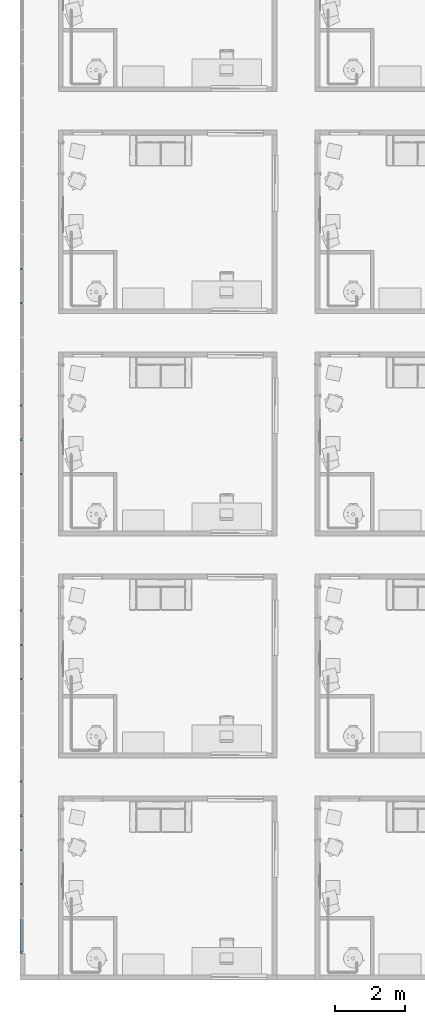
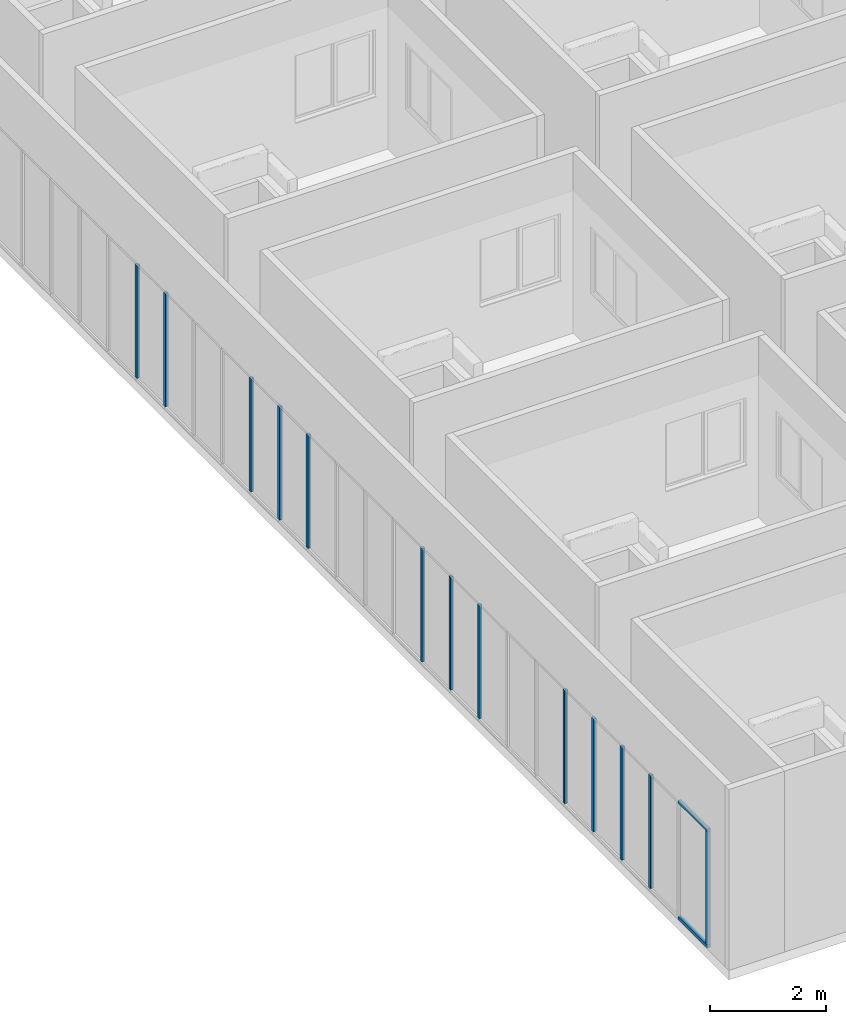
# One storey, part 1 of 71: 15 members, 1 element without a shape of its own.
"""IFC4 building model written with IfcOpenShell, lengths in centimetres."""

from ifc_helpers import new_model, entity, si_unit, converted_unit, derived_unit, direction, frame, origin, place, context, subcontext, project, spatial, indexed_curve, outline, extrude, source, transform, mapped, material, type_object, type_shapes, element, aggregate, save


model = new_model("IFC4")

# Units and contexts
model_context = context("Model", 3, precision=0.001, world=origin(), true_north=direction((6.123233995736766e-17, 1.0)))
body_context = subcontext(model_context, "Body", "Model", "MODEL_VIEW")
ifc_project = project(units=[si_unit("LENGTHUNIT", "METRE", prefix="CENTI"), si_unit("AREAUNIT", "SQUARE_METRE"), si_unit("VOLUMEUNIT", "CUBIC_METRE"), derived_unit("THERMALTRANSMITTANCEUNIT", [(si_unit("MASSUNIT", "GRAM", prefix="KILO"), 1), (si_unit("THERMODYNAMICTEMPERATUREUNIT", "KELVIN"), -1), (si_unit("TIMEUNIT", "SECOND"), -3)]), converted_unit("PLANEANGLEUNIT", "DEGREE", entity("IfcPlaneAngleMeasure", 0.017453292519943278), si_unit("PLANEANGLEUNIT", "RADIAN"), dimensions=[0, 0, 0, 0, 0, 0, 0]), derived_unit("MASSDENSITYUNIT", [(si_unit("MASSUNIT", "GRAM", prefix="KILO"), 1), (si_unit("LENGTHUNIT", "METRE"), -3)]), derived_unit("VAPORPERMEABILITYUNIT", [(si_unit("LENGTHUNIT", "METRE"), -1), (si_unit("TIMEUNIT", "SECOND"), 1)]), derived_unit("USERDEFINED", [(si_unit("MASSUNIT", "GRAM", prefix="KILO"), 1), (si_unit("TIMEUNIT", "SECOND"), -3), (si_unit("LENGTHUNIT", "METRE"), 3), (si_unit("ELECTRICCURRENTUNIT", "AMPERE"), -2)]), derived_unit("SPECIFICHEATCAPACITYUNIT", [(si_unit("THERMODYNAMICTEMPERATUREUNIT", "KELVIN"), -1), (si_unit("LENGTHUNIT", "METRE"), 2), (si_unit("TIMEUNIT", "SECOND"), -2)]), derived_unit("THERMALCONDUCTANCEUNIT", [(si_unit("MASSUNIT", "GRAM", prefix="KILO"), 1), (si_unit("THERMODYNAMICTEMPERATUREUNIT", "KELVIN"), -1), (si_unit("TIMEUNIT", "SECOND"), -3), (si_unit("LENGTHUNIT", "METRE"), 1)]), si_unit("PRESSUREUNIT", "PASCAL"), derived_unit("MODULUSOFELASTICITYUNIT", [(si_unit("MASSUNIT", "GRAM", prefix="KILO"), 1), (si_unit("LENGTHUNIT", "METRE"), -1), (si_unit("TIMEUNIT", "SECOND"), -2)]), derived_unit("THERMALEXPANSIONCOEFFICIENTUNIT", [(si_unit("THERMODYNAMICTEMPERATUREUNIT", "KELVIN"), -1)])], contexts=[model_context])

# Site, building, storey
site_placement = place(None, origin())
site = spatial("IfcSite", under=ifc_project, at=site_placement, Name="Default", CompositionType="ELEMENT")
building_placement = place(site_placement, origin())
building = spatial("IfcBuilding", under=site, at=building_placement, Name="IDS Escape Game Building", CompositionType="ELEMENT")
storey_placement = place(building_placement, frame((0.0, 0.0, 400.0)))
storey = spatial("IfcBuildingStorey", under=building, at=storey_placement, Name="01_First Floor", CompositionType="ELEMENT", Elevation=399.99999999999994)

# Curtain wall, members
curtain_wall_type = type_object("IfcCurtainWallType", Name="Curtain Wall:ARC_31.3_CWA_LIB_bandraam vast 100cm - profiel 60x60_gen_BERSnl", PredefinedType="NOTDEFINED")
curtain_wall_placement = place(storey_placement, frame((0.0, 0.0, -400.0)))
curtain_wall = element("IfcCurtainWall", 1, at=curtain_wall_placement, inside=storey, type_object=curtain_wall_type, Name="Curtain Wall:ARC_31.3_CWA_LIB_bandraam vast 100cm - profiel 60x60_gen_BERSnl", ObjectType="Curtain Wall:ARC_31.3_CWA_LIB_bandraam vast 100cm - profiel 60x60_gen_BERSnl", PredefinedType="NOTDEFINED")
ifc_material = material(Name="<Unnamed>")
member_type_1 = type_object("IfcMemberType", Name="Rectangular Mullion:30-_Stijl_Rechthoek_Midden_B60xD60", PredefinedType="MULLION", material=ifc_material)
shared_shape_1 = source(origin(), body_context, "Body", "SweptSolid", [
    extrude(outline(indexed_curve([(-3.0, -3.0), (3.0, -3.0), (3.0, 3.0), (-3.0, 3.0), (-3.0, -3.0)], self_intersect=False)), frame((-3.0, 3.0, -238.0), z_axis=(0.0, 0.0, 1.0), x_axis=(-1.0, 0.0, 0.0)), (0.0, 0.0, 1.0), 238.00000000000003),
])
type_shapes(member_type_1, [shared_shape_1])
member_1_placement = place(curtain_wall_placement, frame((-110.0, 75.0, 406.0), z_axis=(0.0, 0.0, -1.0), x_axis=(0.0, -1.0, 0.0)))
member_1 = element("IfcMember", 2, at=member_1_placement, type_object=member_type_1, material=ifc_material, Name="Rectangular Mullion:30-_Stijl_Rechthoek_Midden_B60xD60", ObjectType="Rectangular Mullion:30-_Stijl_Rechthoek_Midden_B60xD60", PredefinedType="MULLION", context=body_context, shape_type="MappedRepresentation", body=[
    mapped(shared_shape_1, transform((0.0, 0.0, 0.0), scale=1.0)),
])
member_type_2 = type_object("IfcMemberType", Name="Rectangular Mullion:30-_Stijl_Rechthoek_Midden_B60xD60", PredefinedType="MULLION", material=ifc_material)
shared_shape_2 = source(origin(), body_context, "Body", "SweptSolid", [
    extrude(outline(indexed_curve([(-3.0, -3.0), (3.0, -3.0), (3.0, 3.0), (-3.0, 3.0), (-3.0, -3.0)], self_intersect=False)), frame((0.0, 3.0, -238.0), z_axis=(0.0, 0.0, 1.0), x_axis=(-1.0, 0.0, 0.0)), (0.0, 0.0, 1.0), 238.00000000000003),
])
type_shapes(member_type_2, [shared_shape_2])
member_2_placement = place(curtain_wall_placement, frame((-110.0, 2041.870967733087, 406.0), z_axis=(0.0, 0.0, -1.0), x_axis=(0.0, -1.0, 0.0)))
member_2 = element("IfcMember", 3, at=member_2_placement, type_object=member_type_2, material=ifc_material, Name="Rectangular Mullion:30-_Stijl_Rechthoek_Midden_B60xD60", ObjectType="Rectangular Mullion:30-_Stijl_Rechthoek_Midden_B60xD60", PredefinedType="MULLION", context=body_context, shape_type="MappedRepresentation", body=[
    mapped(shared_shape_2, transform((0.0, 0.0, 0.0), scale=1.0)),
])
member_3_placement = place(curtain_wall_placement, frame((-110.0, 1943.6774193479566, 406.0), z_axis=(0.0, 0.0, -1.0), x_axis=(0.0, -1.0, 0.0)))
member_3 = element("IfcMember", 4, at=member_3_placement, type_object=member_type_2, material=ifc_material, Name="Rectangular Mullion:30-_Stijl_Rechthoek_Midden_B60xD60", ObjectType="Rectangular Mullion:30-_Stijl_Rechthoek_Midden_B60xD60", PredefinedType="MULLION", context=body_context, shape_type="MappedRepresentation", body=[
    mapped(shared_shape_2, transform((0.0, 0.0, 0.0), scale=1.0)),
])
member_4_placement = place(curtain_wall_placement, frame((-110.0, 1649.0967741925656, 406.0), z_axis=(0.0, 0.0, -1.0), x_axis=(0.0, -1.0, 0.0)))
member_4 = element("IfcMember", 5, at=member_4_placement, type_object=member_type_2, material=ifc_material, Name="Rectangular Mullion:30-_Stijl_Rechthoek_Midden_B60xD60", ObjectType="Rectangular Mullion:30-_Stijl_Rechthoek_Midden_B60xD60", PredefinedType="MULLION", context=body_context, shape_type="MappedRepresentation", body=[
    mapped(shared_shape_2, transform((0.0, 0.0, 0.0), scale=1.0)),
])
member_5_placement = place(curtain_wall_placement, frame((-110.0, 1550.9032258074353, 406.0), z_axis=(0.0, 0.0, -1.0), x_axis=(0.0, -1.0, 0.0)))
member_5 = element("IfcMember", 6, at=member_5_placement, type_object=member_type_2, material=ifc_material, Name="Rectangular Mullion:30-_Stijl_Rechthoek_Midden_B60xD60", ObjectType="Rectangular Mullion:30-_Stijl_Rechthoek_Midden_B60xD60", PredefinedType="MULLION", context=body_context, shape_type="MappedRepresentation", body=[
    mapped(shared_shape_2, transform((0.0, 0.0, 0.0), scale=1.0)),
])
member_6_placement = place(curtain_wall_placement, frame((-110.0, 1452.7096774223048, 406.0), z_axis=(0.0, 0.0, -1.0), x_axis=(0.0, -1.0, 0.0)))
member_6 = element("IfcMember", 7, at=member_6_placement, type_object=member_type_2, material=ifc_material, Name="Rectangular Mullion:30-_Stijl_Rechthoek_Midden_B60xD60", ObjectType="Rectangular Mullion:30-_Stijl_Rechthoek_Midden_B60xD60", PredefinedType="MULLION", context=body_context, shape_type="MappedRepresentation", body=[
    mapped(shared_shape_2, transform((0.0, 0.0, 0.0), scale=1.0)),
])
member_7_placement = place(curtain_wall_placement, frame((-110.0, 1059.9354838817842, 406.0), z_axis=(0.0, 0.0, -1.0), x_axis=(0.0, -1.0, 0.0)))
member_7 = element("IfcMember", 8, at=member_7_placement, type_object=member_type_2, material=ifc_material, Name="Rectangular Mullion:30-_Stijl_Rechthoek_Midden_B60xD60", ObjectType="Rectangular Mullion:30-_Stijl_Rechthoek_Midden_B60xD60", PredefinedType="MULLION", context=body_context, shape_type="MappedRepresentation", body=[
    mapped(shared_shape_2, transform((0.0, 0.0, 0.0), scale=1.0)),
])
member_8_placement = place(curtain_wall_placement, frame((-110.0, 961.741935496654, 406.0), z_axis=(0.0, 0.0, -1.0), x_axis=(0.0, -1.0, 0.0)))
member_8 = element("IfcMember", 9, at=member_8_placement, type_object=member_type_2, material=ifc_material, Name="Rectangular Mullion:30-_Stijl_Rechthoek_Midden_B60xD60", ObjectType="Rectangular Mullion:30-_Stijl_Rechthoek_Midden_B60xD60", PredefinedType="MULLION", context=body_context, shape_type="MappedRepresentation", body=[
    mapped(shared_shape_2, transform((0.0, 0.0, 0.0), scale=1.0)),
])
member_9_placement = place(curtain_wall_placement, frame((-110.0, 863.5483871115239, 406.0), z_axis=(0.0, 0.0, -1.0), x_axis=(0.0, -1.0, 0.0)))
member_9 = element("IfcMember", 10, at=member_9_placement, type_object=member_type_2, material=ifc_material, Name="Rectangular Mullion:30-_Stijl_Rechthoek_Midden_B60xD60", ObjectType="Rectangular Mullion:30-_Stijl_Rechthoek_Midden_B60xD60", PredefinedType="MULLION", context=body_context, shape_type="MappedRepresentation", body=[
    mapped(shared_shape_2, transform((0.0, 0.0, 0.0), scale=1.0)),
])
member_10_placement = place(curtain_wall_placement, frame((-110.0, 568.9677419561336, 406.0), z_axis=(0.0, 0.0, -1.0), x_axis=(0.0, -1.0, 0.0)))
member_10 = element("IfcMember", 11, at=member_10_placement, type_object=member_type_2, material=ifc_material, Name="Rectangular Mullion:30-_Stijl_Rechthoek_Midden_B60xD60", ObjectType="Rectangular Mullion:30-_Stijl_Rechthoek_Midden_B60xD60", PredefinedType="MULLION", context=body_context, shape_type="MappedRepresentation", body=[
    mapped(shared_shape_2, transform((0.0, 0.0, 0.0), scale=1.0)),
])
member_11_placement = place(curtain_wall_placement, frame((-110.0, 470.77419357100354, 406.0), z_axis=(0.0, 0.0, -1.0), x_axis=(0.0, -1.0, 0.0)))
member_11 = element("IfcMember", 12, at=member_11_placement, type_object=member_type_2, material=ifc_material, Name="Rectangular Mullion:30-_Stijl_Rechthoek_Midden_B60xD60", ObjectType="Rectangular Mullion:30-_Stijl_Rechthoek_Midden_B60xD60", PredefinedType="MULLION", context=body_context, shape_type="MappedRepresentation", body=[
    mapped(shared_shape_2, transform((0.0, 0.0, 0.0), scale=1.0)),
])
member_12_placement = place(curtain_wall_placement, frame((-110.0, 372.5806451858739, 406.0), z_axis=(0.0, 0.0, -1.0), x_axis=(0.0, -1.0, 0.0)))
member_12 = element("IfcMember", 13, at=member_12_placement, type_object=member_type_2, material=ifc_material, Name="Rectangular Mullion:30-_Stijl_Rechthoek_Midden_B60xD60", ObjectType="Rectangular Mullion:30-_Stijl_Rechthoek_Midden_B60xD60", PredefinedType="MULLION", context=body_context, shape_type="MappedRepresentation", body=[
    mapped(shared_shape_2, transform((0.0, 0.0, 0.0), scale=1.0)),
])
member_13_placement = place(curtain_wall_placement, frame((-110.0, 274.38709680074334, 406.0), z_axis=(0.0, 0.0, -1.0), x_axis=(0.0, -1.0, 0.0)))
member_13 = element("IfcMember", 14, at=member_13_placement, type_object=member_type_2, material=ifc_material, Name="Rectangular Mullion:30-_Stijl_Rechthoek_Midden_B60xD60", ObjectType="Rectangular Mullion:30-_Stijl_Rechthoek_Midden_B60xD60", PredefinedType="MULLION", context=body_context, shape_type="MappedRepresentation", body=[
    mapped(shared_shape_2, transform((0.0, 0.0, 0.0), scale=1.0)),
])
member_type_3 = type_object("IfcMemberType", Name="Rectangular Mullion:30-_Stijl_Rechthoek_Midden_B60xD60", PredefinedType="MULLION", material=ifc_material)
shared_shape_3 = source(origin(), body_context, "Body", "SweptSolid", [
    extrude(outline(indexed_curve([(-3.0, -3.0), (3.0, -3.0), (3.0, 3.0), (-3.0, 3.0), (-3.0, -3.0)], self_intersect=False)), frame((-3.0, 3.0, -101.193548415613), z_axis=(0.0, 0.0, 1.0), x_axis=(-1.0, 0.0, 0.0)), (0.0, 0.0, 1.0), 101.193548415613),
])
type_shapes(member_type_3, [shared_shape_3])
member_14_placement = place(curtain_wall_placement, frame((-110.0, 75.0, 650.0), z_axis=(0.0, -1.0, 0.0), x_axis=(0.0, 0.0, 1.0)))
member_14 = element("IfcMember", 15, at=member_14_placement, type_object=member_type_3, material=ifc_material, Name="Rectangular Mullion:30-_Stijl_Rechthoek_Midden_B60xD60", ObjectType="Rectangular Mullion:30-_Stijl_Rechthoek_Midden_B60xD60", PredefinedType="MULLION", context=body_context, shape_type="MappedRepresentation", body=[
    mapped(shared_shape_3, transform((0.0, 0.0, 0.0), scale=1.0)),
])
member_type_4 = type_object("IfcMemberType", Name="Rectangular Mullion:30-_Stijl_Rechthoek_Midden_B60xD60", PredefinedType="MULLION", material=ifc_material)
shared_shape_4 = source(origin(), body_context, "Body", "SweptSolid", [
    extrude(outline(indexed_curve([(-3.0, -3.0), (3.0, -3.0), (3.0, 3.0), (-3.0, 3.0), (-3.0, -3.0)], self_intersect=False)), frame((-3.0, 3.0, -101.19354841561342), z_axis=(0.0, 0.0, 1.0), x_axis=(-1.0, 0.0, 0.0)), (0.0, 0.0, 1.0), 101.19354841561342),
])
type_shapes(member_type_4, [shared_shape_4])
member_15_placement = place(curtain_wall_placement, frame((-110.0, 176.1935484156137, 400.0), z_axis=(0.0, 1.0, 0.0), x_axis=(0.0, 0.0, -1.0)))
member_15 = element("IfcMember", 16, at=member_15_placement, type_object=member_type_4, material=ifc_material, Name="Rectangular Mullion:30-_Stijl_Rechthoek_Midden_B60xD60", ObjectType="Rectangular Mullion:30-_Stijl_Rechthoek_Midden_B60xD60", PredefinedType="MULLION", context=body_context, shape_type="MappedRepresentation", body=[
    mapped(shared_shape_4, transform((0.0, 0.0, 0.0), scale=1.0)),
])
aggregate(curtain_wall, [member_14, member_15, member_1, member_2, member_3, member_4, member_5, member_6, member_7, member_8, member_9, member_10, member_11, member_12, member_13])

save(model, "model.ifc")
